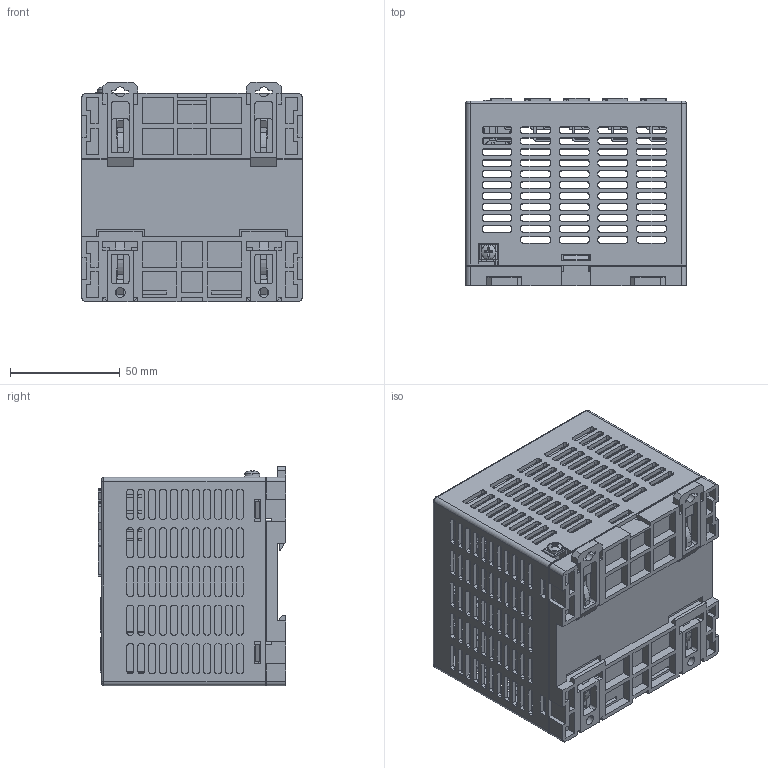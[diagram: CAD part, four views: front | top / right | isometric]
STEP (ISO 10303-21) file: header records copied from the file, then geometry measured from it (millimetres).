
FILE_DESCRIPTION (( 'STEP AP203' ), '1' );
FILE_NAME ('P116-DR-000-02-R01.STEP', '2019-05-14T09:55:00', ( '' ), ( '' ), 'SwSTEP 2.0', 'SolidWorks 2013', '' );
FILE_SCHEMA (( 'CONFIG_CONTROL_DESIGN' ));
Length unit declared in the file: millimetre
Products named in the file (18): P116-DR-000-02-R01; M116-DR-000-03-R00; Ezi-SERVO2-EtherCAT 4蹴 PCB2-01; 039301080; 440500007; M116-DR-000-04-R00; 039301020; M116-DR-000-06-R00; MOLEX_0678038020; 039301040; 532610571; 559591030; S07B-PASK-2; CAT. NO. 7700-3; Ezi-SERVO2-EtherCAT 4蹴 PCB1-01; pan cross head_ai_CR-PHMS 0.138-32x0.25x0.25-N; M116-DR-000-02-R01; M116-DR-000-01-R01
Assembly tree (39 placements, depth 2):
  P116-DR-000-02-R01
    M116-DR-000-01-R01
    Ezi-SERVO2-EtherCAT 4蹴 PCB2-01  x5
    440500007  x2
    039301020
    MOLEX_0678038020  x4
    532610571  x4
    S07B-PASK-2  x4
    Ezi-SERVO2-EtherCAT 4蹴 PCB1-01
    M116-DR-000-02-R01
    M116-DR-000-03-R00  x2
    039301080
    M116-DR-000-04-R00  x2
    M116-DR-000-06-R00
    039301040  x4
    559591030  x4
    CAT. NO. 7700-3
    pan cross head_ai_CR-PHMS 0.138-32x0.25x0.25-N
Bounding box: 100.4 x 85.5 x 100 mm (x, y, z)
Volume: 169717.7 mm3; surface area: 230303.3 mm2
Topology: 47 solids, 47 shells, 10029 faces, 28060 edges, 18332 vertices
Faces by surface type: plane 7822, cylinder 1953, bspline 152, cone 94, torus 6, sphere 2
Entity records: 171420 total; most frequent: CARTESIAN_POINT 31844, ORIENTED_EDGE 29280, DIRECTION 27378, EDGE_CURVE 14640, VECTOR 11814, LINE 11814, VERTEX_POINT 9620, AXIS2_PLACEMENT_3D 7782
